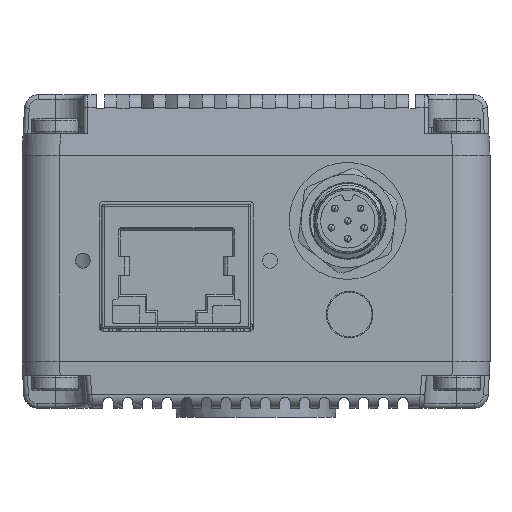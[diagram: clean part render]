
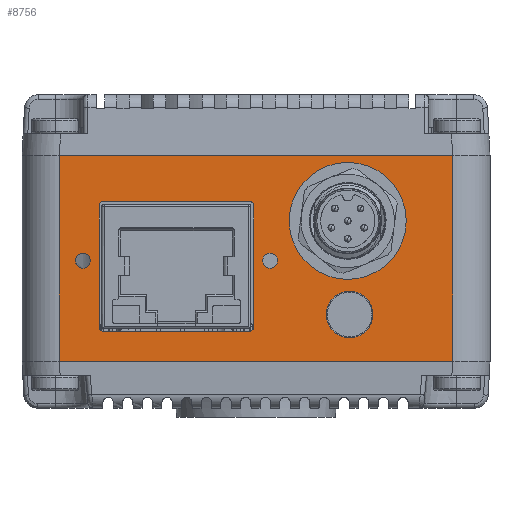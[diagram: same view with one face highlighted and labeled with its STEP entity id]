
A CAD part, left-side view. The second image highlights one B-rep face of the part: STEP entity #8756.
In plain terms, the highlighted planar face has unit normal (-1, 0, 0).
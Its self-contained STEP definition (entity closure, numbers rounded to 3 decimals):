
#1912=FACE_BOUND('',#13371,.T.);
#1913=FACE_BOUND('',#13372,.T.);
#1914=FACE_BOUND('',#13373,.T.);
#1915=FACE_BOUND('',#13374,.T.);
#1916=FACE_BOUND('',#13375,.T.);
#1917=FACE_BOUND('',#13376,.T.);
#3470=LINE('',#76499,#6180);
#3472=LINE('',#76512,#6182);
#3499=LINE('',#76730,#6209);
#3500=LINE('',#76731,#6210);
#3501=LINE('',#76735,#6211);
#3502=LINE('',#76739,#6212);
#3503=LINE('',#76743,#6213);
#3504=LINE('',#76747,#6214);
#6180=VECTOR('',#40997,1.);
#6182=VECTOR('',#41003,1.);
#6209=VECTOR('',#41122,1.);
#6210=VECTOR('',#41123,1.);
#6211=VECTOR('',#41126,1.);
#6212=VECTOR('',#41129,1.);
#6213=VECTOR('',#41132,1.);
#6214=VECTOR('',#41135,1.);
#8756=ADVANCED_FACE('',(#1912,#1913,#1914,#1915,#1916,#1917),#10128,.T.);
#10128=PLANE('',#35657);
#13371=EDGE_LOOP('',(#18928,#18929,#18930,#18931));
#13372=EDGE_LOOP('',(#18932,#18933));
#13373=EDGE_LOOP('',(#18934,#18935));
#13374=EDGE_LOOP('',(#18936,#18937,#18938,#18939,#18940,#18941,#18942,#18943));
#13375=EDGE_LOOP('',(#18944,#18945));
#13376=EDGE_LOOP('',(#18946,#18947));
#18928=ORIENTED_EDGE('',*,*,#30171,.F.);
#18929=ORIENTED_EDGE('',*,*,#30108,.T.);
#18930=ORIENTED_EDGE('',*,*,#30172,.T.);
#18931=ORIENTED_EDGE('',*,*,#30104,.F.);
#18932=ORIENTED_EDGE('',*,*,#30144,.F.);
#18933=ORIENTED_EDGE('',*,*,#30142,.F.);
#18934=ORIENTED_EDGE('',*,*,#30135,.F.);
#18935=ORIENTED_EDGE('',*,*,#30138,.F.);
#18936=ORIENTED_EDGE('',*,*,#30173,.T.);
#18937=ORIENTED_EDGE('',*,*,#30174,.F.);
#18938=ORIENTED_EDGE('',*,*,#30175,.T.);
#18939=ORIENTED_EDGE('',*,*,#30176,.F.);
#18940=ORIENTED_EDGE('',*,*,#30177,.T.);
#18941=ORIENTED_EDGE('',*,*,#30178,.F.);
#18942=ORIENTED_EDGE('',*,*,#30179,.T.);
#18943=ORIENTED_EDGE('',*,*,#30180,.F.);
#18944=ORIENTED_EDGE('',*,*,#30096,.F.);
#18945=ORIENTED_EDGE('',*,*,#30082,.F.);
#18946=ORIENTED_EDGE('',*,*,#30181,.F.);
#18947=ORIENTED_EDGE('',*,*,#30097,.F.);
#26023=VERTEX_POINT('',#76442);
#26026=VERTEX_POINT('',#76447);
#26035=VERTEX_POINT('',#76479);
#26036=VERTEX_POINT('',#76480);
#26042=VERTEX_POINT('',#76498);
#26043=VERTEX_POINT('',#76500);
#26046=VERTEX_POINT('',#76513);
#26047=VERTEX_POINT('',#76514);
#26069=VERTEX_POINT('',#76597);
#26070=VERTEX_POINT('',#76599);
#26072=VERTEX_POINT('',#76607);
#26074=VERTEX_POINT('',#76642);
#26091=VERTEX_POINT('',#76733);
#26092=VERTEX_POINT('',#76734);
#26093=VERTEX_POINT('',#76736);
#26094=VERTEX_POINT('',#76738);
#26095=VERTEX_POINT('',#76740);
#26096=VERTEX_POINT('',#76742);
#26097=VERTEX_POINT('',#76744);
#26098=VERTEX_POINT('',#76746);
#30082=EDGE_CURVE('',#26026,#26023,#33594,.T.);
#30096=EDGE_CURVE('',#26023,#26026,#33600,.T.);
#30097=EDGE_CURVE('',#26035,#26036,#33601,.T.);
#30104=EDGE_CURVE('',#26042,#26043,#3470,.T.);
#30108=EDGE_CURVE('',#26046,#26047,#3472,.T.);
#30135=EDGE_CURVE('',#26069,#26070,#33612,.T.);
#30138=EDGE_CURVE('',#26070,#26069,#33614,.T.);
#30142=EDGE_CURVE('',#26074,#26072,#33615,.T.);
#30144=EDGE_CURVE('',#26072,#26074,#33616,.T.);
#30171=EDGE_CURVE('',#26046,#26042,#3499,.T.);
#30172=EDGE_CURVE('',#26047,#26043,#3500,.T.);
#30173=EDGE_CURVE('',#26091,#26092,#33633,.T.);
#30174=EDGE_CURVE('',#26093,#26092,#3501,.T.);
#30175=EDGE_CURVE('',#26093,#26094,#33634,.T.);
#30176=EDGE_CURVE('',#26095,#26094,#3502,.T.);
#30177=EDGE_CURVE('',#26095,#26096,#33635,.T.);
#30178=EDGE_CURVE('',#26097,#26096,#3503,.T.);
#30179=EDGE_CURVE('',#26097,#26098,#33636,.T.);
#30180=EDGE_CURVE('',#26091,#26098,#3504,.T.);
#30181=EDGE_CURVE('',#26036,#26035,#33637,.T.);
#33594=CIRCLE('',#35586,6.25);
#33600=CIRCLE('',#35598,6.25);
#33601=CIRCLE('',#35600,2.5);
#33612=CIRCLE('',#35618,0.8);
#33614=CIRCLE('',#35621,0.8);
#33615=CIRCLE('',#35623,0.8);
#33616=CIRCLE('',#35625,0.8);
#33633=CIRCLE('',#35652,0.5);
#33634=CIRCLE('',#35653,0.5);
#33635=CIRCLE('',#35654,0.5);
#33636=CIRCLE('',#35655,0.5);
#33637=CIRCLE('',#35656,2.5);
#35586=AXIS2_PLACEMENT_3D('',#76448,#40950,#40951);
#35598=AXIS2_PLACEMENT_3D('',#76476,#40982,#40983);
#35600=AXIS2_PLACEMENT_3D('',#76478,#40986,#40987);
#35618=AXIS2_PLACEMENT_3D('',#76598,#41041,#41042);
#35621=AXIS2_PLACEMENT_3D('',#76603,#41048,#41049);
#35623=AXIS2_PLACEMENT_3D('',#76643,#41054,#41055);
#35625=AXIS2_PLACEMENT_3D('',#76677,#41058,#41059);
#35652=AXIS2_PLACEMENT_3D('',#76732,#41124,#41125);
#35653=AXIS2_PLACEMENT_3D('',#76737,#41127,#41128);
#35654=AXIS2_PLACEMENT_3D('',#76741,#41130,#41131);
#35655=AXIS2_PLACEMENT_3D('',#76745,#41133,#41134);
#35656=AXIS2_PLACEMENT_3D('',#76748,#41136,#41137);
#35657=AXIS2_PLACEMENT_3D('',#76749,#41138,#41139);
#40950=DIRECTION('',(-1.,0.,0.));
#40951=DIRECTION('',(0.,1.,0.));
#40982=DIRECTION('',(-1.,0.,0.));
#40983=DIRECTION('',(0.,-1.,0.));
#40986=DIRECTION('',(-1.,0.,0.));
#40987=DIRECTION('',(0.,-1.,0.));
#40997=DIRECTION('',(0.,0.,-1.));
#41003=DIRECTION('',(0.,0.,-1.));
#41041=DIRECTION('',(-1.,0.,0.));
#41042=DIRECTION('',(0.,-1.,0.));
#41048=DIRECTION('',(-1.,0.,0.));
#41049=DIRECTION('',(0.,1.,0.));
#41054=DIRECTION('',(-1.,0.,0.));
#41055=DIRECTION('',(0.,1.,0.));
#41058=DIRECTION('',(-1.,0.,0.));
#41059=DIRECTION('',(0.,-1.,0.));
#41122=DIRECTION('',(0.,-1.,0.));
#41123=DIRECTION('',(0.,-1.,0.));
#41124=DIRECTION('',(1.,0.,0.));
#41125=DIRECTION('',(0.,0.,1.));
#41126=DIRECTION('',(0.,0.,1.));
#41127=DIRECTION('',(1.,0.,0.));
#41128=DIRECTION('',(0.,-1.,0.));
#41129=DIRECTION('',(0.,-1.,0.));
#41130=DIRECTION('',(1.,0.,0.));
#41131=DIRECTION('',(0.,0.,-1.));
#41132=DIRECTION('',(0.,0.,-1.));
#41133=DIRECTION('',(1.,0.,0.));
#41134=DIRECTION('',(0.,1.,0.));
#41135=DIRECTION('',(0.,1.,0.));
#41136=DIRECTION('',(-1.,0.,0.));
#41137=DIRECTION('',(0.,1.,0.));
#41138=DIRECTION('',(-1.,0.,0.));
#41139=DIRECTION('',(0.,1.,0.));
#76442=CARTESIAN_POINT('',(-59.,-16.05,4.));
#76447=CARTESIAN_POINT('',(-59.,-3.55,4.));
#76448=CARTESIAN_POINT('',(-59.,-9.8,4.));
#76476=CARTESIAN_POINT('',(-59.,-9.8,4.));
#76478=CARTESIAN_POINT('',(-59.,-10.,-6.));
#76479=CARTESIAN_POINT('',(-59.,-12.5,-6.));
#76480=CARTESIAN_POINT('',(-59.,-7.5,-6.));
#76498=CARTESIAN_POINT('',(-59.,-21.,11.));
#76499=CARTESIAN_POINT('',(-59.,-21.,11.));
#76500=CARTESIAN_POINT('',(-59.,-21.,-11.));
#76512=CARTESIAN_POINT('',(-59.,21.,11.));
#76513=CARTESIAN_POINT('',(-59.,21.003,11.));
#76514=CARTESIAN_POINT('',(-59.,21.,-11.));
#76597=CARTESIAN_POINT('',(-59.,-2.3,-0.25));
#76598=CARTESIAN_POINT('',(-59.,-1.5,-0.25));
#76599=CARTESIAN_POINT('',(-59.,-0.7,-0.25));
#76603=CARTESIAN_POINT('',(-59.,-1.5,-0.25));
#76607=CARTESIAN_POINT('',(-59.,17.7,-0.25));
#76642=CARTESIAN_POINT('',(-59.,19.3,-0.25));
#76643=CARTESIAN_POINT('',(-59.,18.5,-0.25));
#76677=CARTESIAN_POINT('',(-59.,18.5,-0.25));
#76730=CARTESIAN_POINT('',(-59.,21.,11.));
#76731=CARTESIAN_POINT('',(-59.,21.,-11.));
#76732=CARTESIAN_POINT('',(-59.,0.75,5.6));
#76733=CARTESIAN_POINT('',(-59.,0.75,6.1));
#76734=CARTESIAN_POINT('',(-59.,0.25,5.6));
#76735=CARTESIAN_POINT('',(-59.,0.25,-7.3));
#76736=CARTESIAN_POINT('',(-59.,0.25,-7.3));
#76737=CARTESIAN_POINT('',(-59.,0.75,-7.3));
#76738=CARTESIAN_POINT('',(-59.,0.75,-7.8));
#76739=CARTESIAN_POINT('',(-59.,16.25,-7.8));
#76740=CARTESIAN_POINT('',(-59.,16.25,-7.8));
#76741=CARTESIAN_POINT('',(-59.,16.25,-7.3));
#76742=CARTESIAN_POINT('',(-59.,16.75,-7.3));
#76743=CARTESIAN_POINT('',(-59.,16.75,5.6));
#76744=CARTESIAN_POINT('',(-59.,16.75,5.6));
#76745=CARTESIAN_POINT('',(-59.,16.25,5.6));
#76746=CARTESIAN_POINT('',(-59.,16.25,6.1));
#76747=CARTESIAN_POINT('',(-59.,0.75,6.1));
#76748=CARTESIAN_POINT('',(-59.,-10.,-6.));
#76749=CARTESIAN_POINT('',(-59.,25.,-16.));
